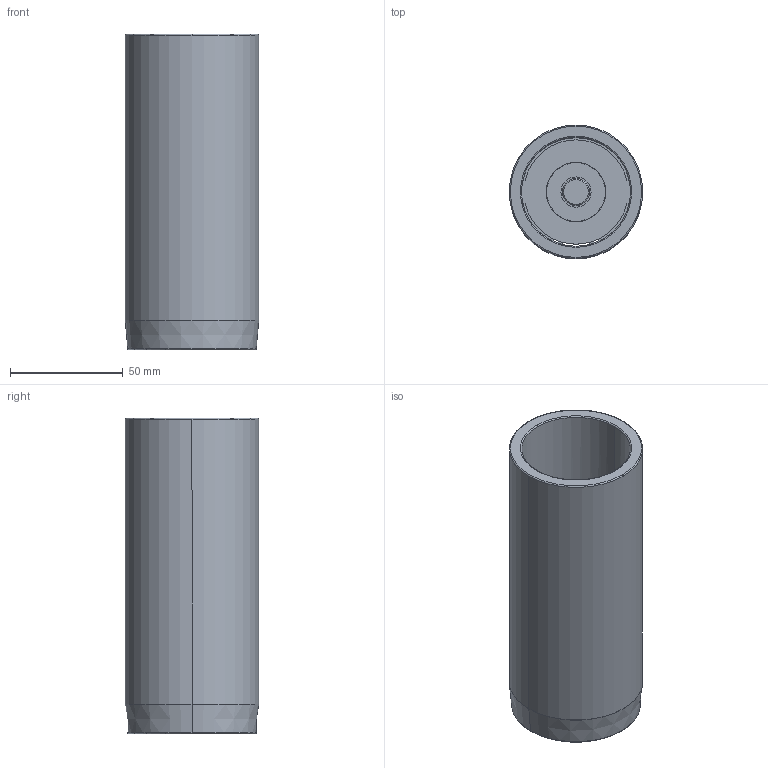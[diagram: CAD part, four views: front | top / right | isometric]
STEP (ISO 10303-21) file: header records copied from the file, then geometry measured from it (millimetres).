
FILE_DESCRIPTION((''),'2;1');
FILE_NAME('C12_048_140.stp','2009-01-28T14:13:51',(''),(''),'Mechanical Desktop 2009','Mechanical Desktop 2009',', , ');
FILE_SCHEMA(('CONFIG_CONTROL_DESIGN'));
Length unit declared in the file: millimetre
Products named in the file (2): Product; blmdl1
Assembly tree (1 placements, depth 2):
  Product
    blmdl1
Bounding box: 59.25 x 59.25 x 140 mm (x, y, z)
Volume: 134989.9 mm3; surface area: 58243.5 mm2
Topology: 5 solids, 5 shells, 79 faces, 200 edges, 134 vertices
Faces by surface type: cylinder 34, plane 29, torus 10, cone 6
Entity records: 2585 total; most frequent: DIRECTION 480, CARTESIAN_POINT 435, ORIENTED_EDGE 400, AXIS2_PLACEMENT_3D 203, EDGE_CURVE 200, VERTEX_POINT 134, CIRCLE 122, EDGE_LOOP 92
